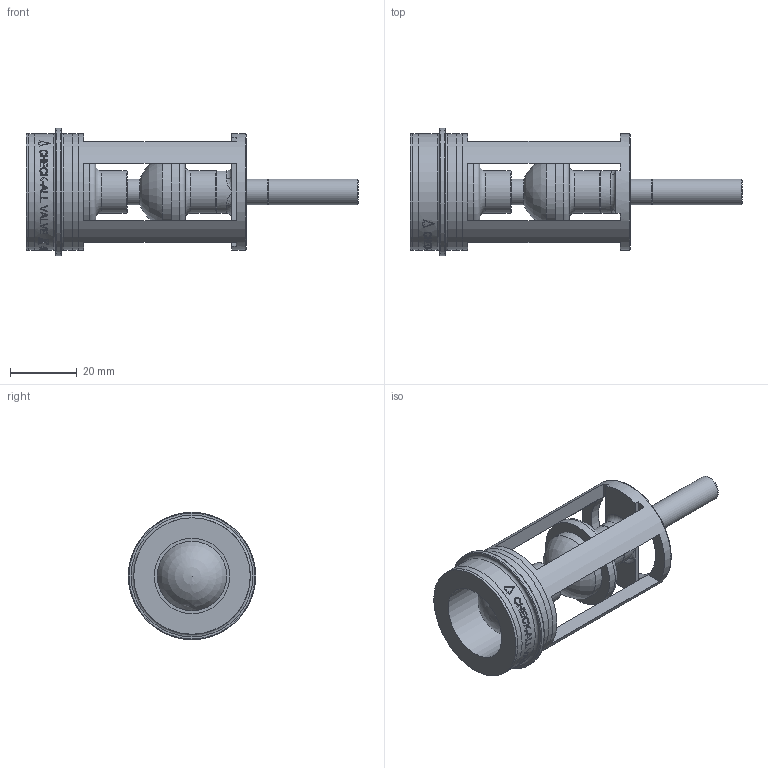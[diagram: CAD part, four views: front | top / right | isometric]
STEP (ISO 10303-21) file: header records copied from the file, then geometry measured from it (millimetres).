
FILE_DESCRIPTION(/* description */ ('Unknown'),/* implementation_level */ '2;1');
FILE_NAME(/* name */ '3SJ',/* time_stamp */ '2024-07-31T15:50:18-05:00',/* author */ ('Unknown'),/* organization */ ('Unknown'),/* preprocessor_version */ 'ST-DEVELOPER v19.4',/* originating_system */ 'Solid Edge',/* authorisation */ 'Unknown');
FILE_SCHEMA (('AUTOMOTIVE_DESIGN {1 0 10303 214 3 1 1}'));
Length unit declared in the file: millimetre
Products named in the file (1): 3SJ
Bounding box: 99.21 x 38.1 x 38.1 mm (x, y, z)
Volume: 30180.7 mm3; surface area: 14861.9 mm2
Topology: 1 solids, 1 shells, 323 faces, 813 edges, 532 vertices
Faces by surface type: plane 149, bspline 101, cylinder 56, torus 16, sphere 1
Full cylindrical faces by diameter (mm): 7.62 x3, 7.645 x1, 12.7 x3, 20.701 x2, 22.606 x1, 26.975 x2, 27 x1, 34.773 x4, 34.798 x2, 38.1 x1
Entity records: 15671 total; most frequent: CARTESIAN_POINT 7326, ORIENTED_EDGE 1514, EDGE_CURVE 757, DIRECTION 662, B_SPLINE_CURVE_WITH_KNOTS 624, VERTEX_POINT 522, EDGE_LOOP 421, FACE_BOUND 421
